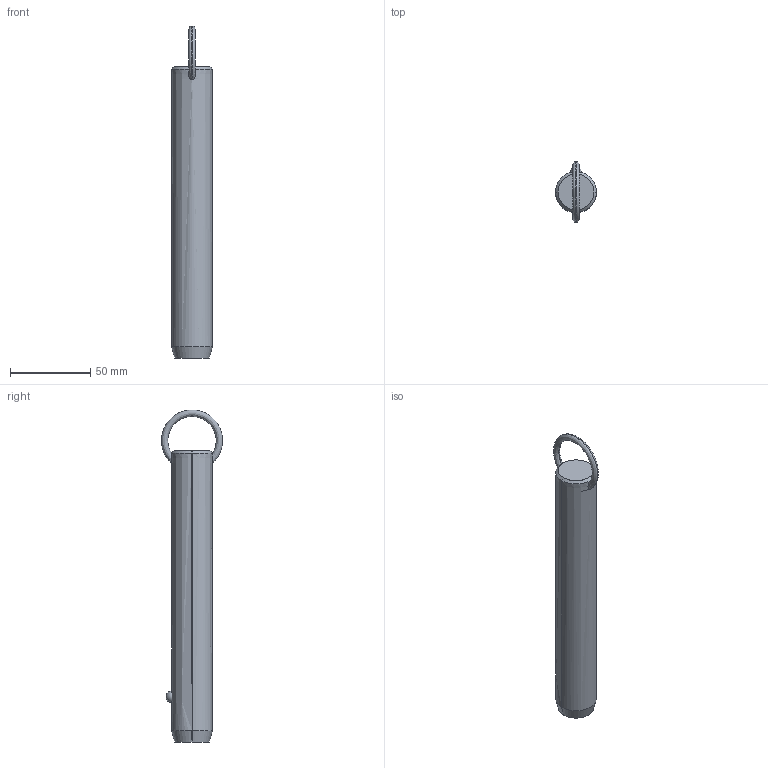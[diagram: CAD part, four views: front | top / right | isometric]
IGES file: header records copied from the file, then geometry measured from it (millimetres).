
Start section: SolidWorks IGES file using analytic representation for surfaces
Global section: file name: C:\Users\liam_\OneDrive\Documents\WORK\Work for WixRoyd\Job Files\J-00019 - Matt Davis CAD Checking\04. CAD Drawings\automotion20190605\P1250.2_v2\P1250.2_v2_20190729_IGES\P1250.100-540.igs; native system: SolidWorks 2017; preprocessor: SolidWorks 2017; author: liam_; date: 190730.174303; units: millimetre
Bounding box: 25.4 x 38.09 x 207 mm (x, y, z)
Surface area: 16264.4 mm2 (no closed solid volume)
Topology: 0 solids, 0 shells, 12 faces, 298 edges, 296 vertices
Faces by surface type: revolution 8, bspline 4
